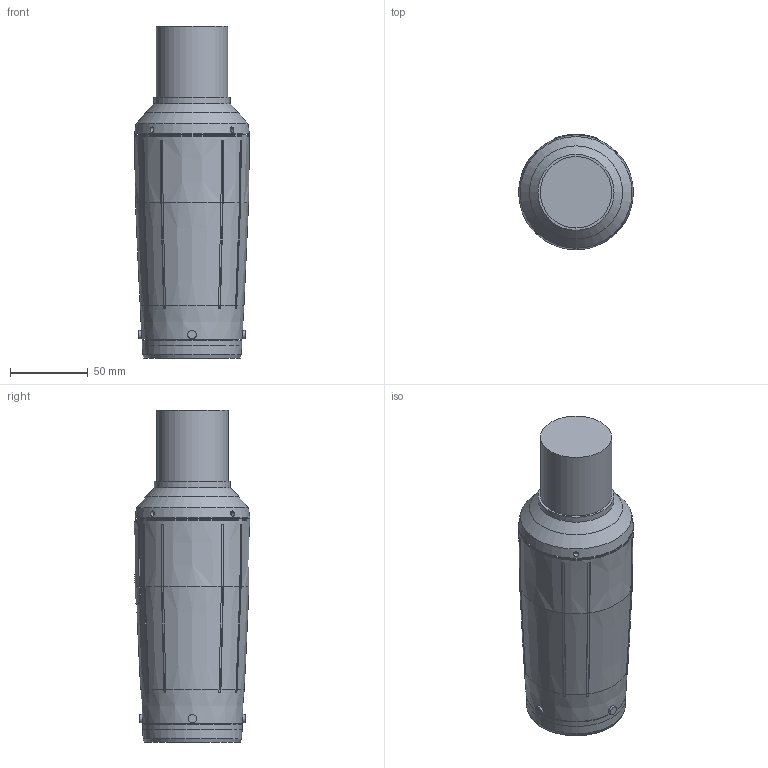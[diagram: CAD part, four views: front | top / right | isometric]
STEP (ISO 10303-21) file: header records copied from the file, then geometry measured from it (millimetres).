
FILE_DESCRIPTION(('FreeCAD Model'),'2;1');
FILE_NAME('Open CASCADE Shape Model','2026-09-19T21:01:32',('FreeCAD'),( 'FreeCAD'),'Open CASCADE STEP processor 7.8','FreeCAD','Unknown');
FILE_SCHEMA(('AUTOMOTIVE_DESIGN { 1 0 10303 214 1 1 1 1 }'));
Length unit declared in the file: millimetre
Products named in the file (1): Open CASCADE STEP translator 7.8 8
Bounding box: 74 x 74.56 x 214 mm (x, y, z)
Volume: 370301.5 mm3; surface area: 181984.9 mm2
Topology: 42 solids, 42 shells, 960 faces, 2525 edges, 1676 vertices
Faces by surface type: plane 726, cylinder 180, cone 54
Full cylindrical faces by diameter (mm): 2.2 x4, 2.9 x12, 3 x8, 3.1 x4, 3.2 x4, 3.4 x42, 4.2 x4, 5.5 x4, 5.7 x8, 6.5 x2, 7 x2, 9.2 x2, 15.875 x1, 16 x1, 18.256 x1, 18.9 x1, 36.513 x1, 46 x1, 46.6 x1, 49 x1, 57.7 x1, 61.3 x1, 66.9 x1, 67.6 x1, 73.982 x1
Entity records: 33292 total; most frequent: CARTESIAN_POINT 8865, ORIENTED_EDGE 5050, DIRECTION 4914, EDGE_CURVE 2525, LINE 1876, VECTOR 1876, VERTEX_POINT 1676, AXIS2_PLACEMENT_3D 1519
